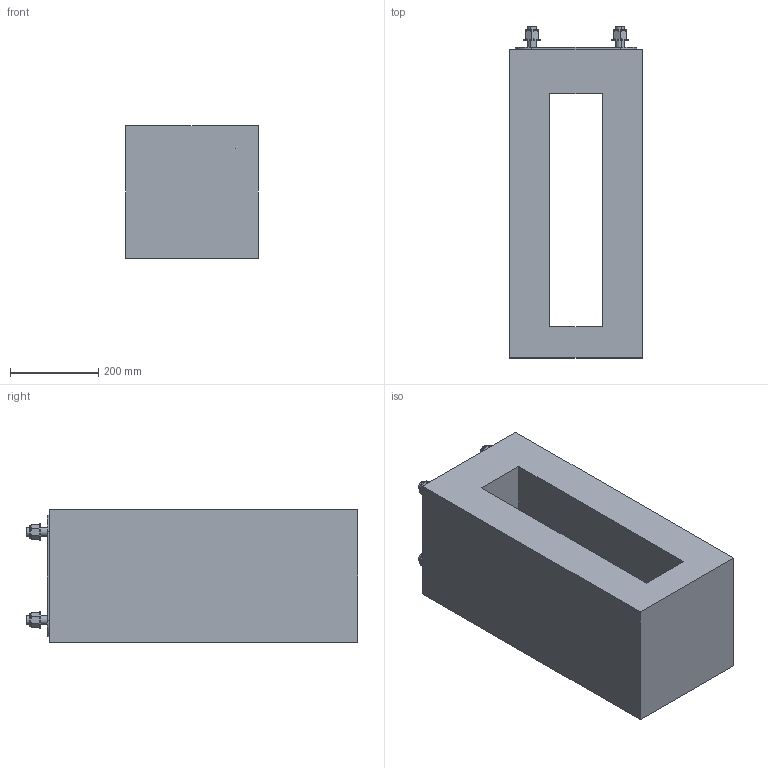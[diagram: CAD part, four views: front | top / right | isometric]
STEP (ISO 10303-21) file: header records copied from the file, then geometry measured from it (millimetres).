
FILE_DESCRIPTION (( 'STEP AP203' ), '1' );
FILE_NAME ('7664.STEP', '2020-07-09T11:55:27', ( '' ), ( '' ), 'SwSTEP 2.0', 'SolidWorks 2019', '' );
FILE_SCHEMA (( 'CONFIG_CONTROL_DESIGN' ));
Length unit declared in the file: millimetre
Products named in the file (7): M20 SAM_rs; POD 21_rs; S｣UP 120_76_Podstawa 200_Blacha_rs_Szpilki 200; S｣UP 120_76_Podstawa 200_Beton_rs; S｣UP 120_76_SZPILKI  KOM_rs; 7664; S｣UP 120_76_Podstawa 200_Kotwa_rs
Assembly tree (15 placements, depth 3):
  7664
    S｣UP 120_76_SZPILKI  KOM_rs
      S｣UP 120_76_Podstawa 200_Blacha_rs_Szpilki 200
      S｣UP 120_76_Podstawa 200_Kotwa_rs  x4
      POD 21_rs  x4
      M20 SAM_rs  x4
    S｣UP 120_76_Podstawa 200_Beton_rs
Bounding box: 300 x 754 x 300 mm (x, y, z)
Volume: 43276327.2 mm3; surface area: 1843165.2 mm2
Topology: 14 solids, 14 shells, 229 faces, 512 edges, 314 vertices
Faces by surface type: cylinder 80, plane 69, cone 56, torus 24
Entity records: 4153 total; most frequent: CARTESIAN_POINT 668, DIRECTION 590, ORIENTED_EDGE 484, AXIS2_PLACEMENT_3D 250, EDGE_CURVE 242, VERTEX_POINT 152, CIRCLE 128, EDGE_LOOP 124
